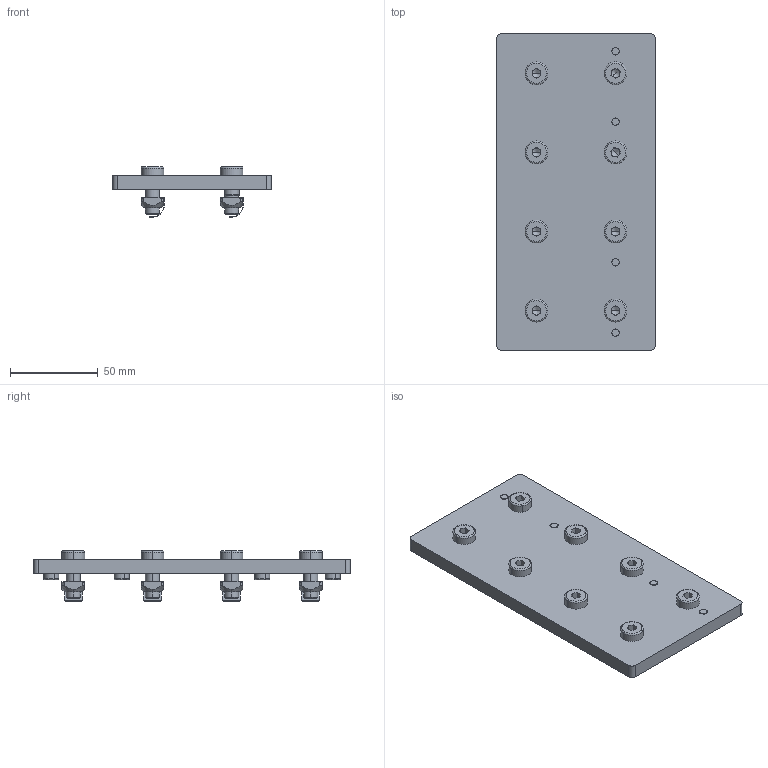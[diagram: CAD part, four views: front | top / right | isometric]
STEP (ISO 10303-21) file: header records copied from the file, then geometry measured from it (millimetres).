
FILE_DESCRIPTION (( 'STEP AP214' ), '1' );
FILE_NAME ('1.3076 180X90 Kiinnityslevy.STEP', '2025-12-01T09:18:13', ( '' ), ( '' ), 'SwSTEP 2.0', 'SolidWorks 2025', '' );
FILE_SCHEMA (( 'AUTOMOTIVE_DESIGN' ));
Length unit declared in the file: millimetre
Products named in the file (1): 1.3076 180X90 Kiinnityslevy
Bounding box: 90 x 180 x 28.65 mm (x, y, z)
Volume: 145449.1 mm3; surface area: 54284.1 mm2
Topology: 21 solids, 21 shells, 622 faces, 1480 edges, 900 vertices
Faces by surface type: plane 362, cylinder 124, cone 88, torus 48
Entity records: 25445 total; most frequent: CARTESIAN_POINT 4107, DIRECTION 3030, ORIENTED_EDGE 2912, EDGE_CURVE 1456, AXIS2_PLACEMENT_3D 1103, VERTEX_POINT 900, LINE 824, VECTOR 824
